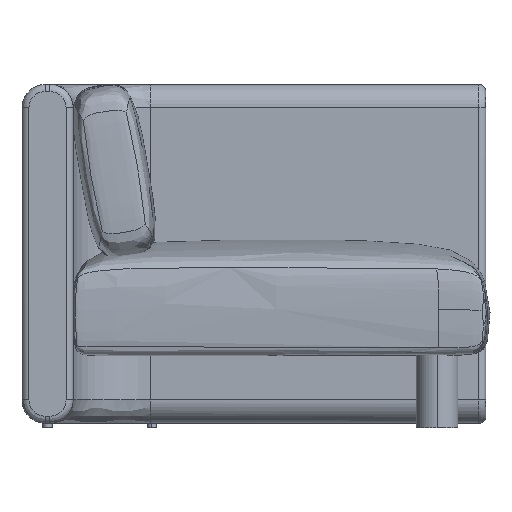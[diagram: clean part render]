
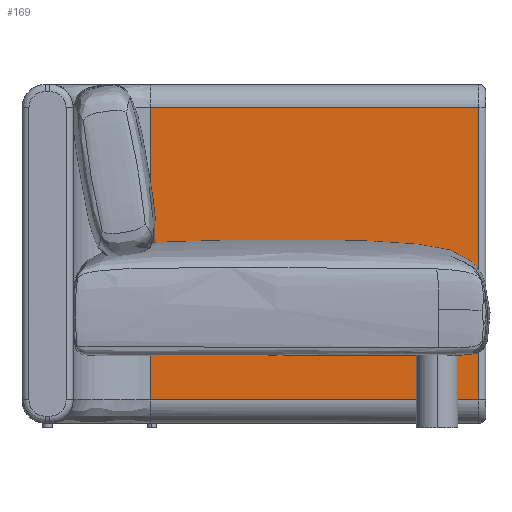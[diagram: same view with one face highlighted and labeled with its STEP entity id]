
A CAD part, left-side view. The second image highlights one B-rep face of the part: STEP entity #169.
In plain terms, the highlighted planar face has unit normal (-1, 0, 0).
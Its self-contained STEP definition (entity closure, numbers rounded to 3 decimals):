
#169=ADVANCED_FACE('',(#260),#1250,.T.);
#260=FACE_OUTER_BOUND('',#351,.T.);
#351=EDGE_LOOP('',(#467,#468,#469,#470));
#467=ORIENTED_EDGE('',*,*,#867,.T.);
#468=ORIENTED_EDGE('',*,*,#847,.F.);
#469=ORIENTED_EDGE('',*,*,#868,.F.);
#470=ORIENTED_EDGE('',*,*,#866,.F.);
#847=EDGE_CURVE('',#1144,#1132,#1040,.T.);
#866=EDGE_CURVE('',#1160,#1161,#1055,.T.);
#867=EDGE_CURVE('',#1160,#1132,#1056,.T.);
#868=EDGE_CURVE('',#1161,#1144,#1057,.T.);
#1040=(
BOUNDED_CURVE()
B_SPLINE_CURVE(1,(#1733,#1734),.UNSPECIFIED.,.F.,.F.)
B_SPLINE_CURVE_WITH_KNOTS((2,2),(50.,680.),.UNSPECIFIED.)
CURVE()
GEOMETRIC_REPRESENTATION_ITEM()
RATIONAL_B_SPLINE_CURVE((1.,1.))
REPRESENTATION_ITEM('')
);
#1055=(
BOUNDED_CURVE()
B_SPLINE_CURVE(1,(#1778,#1779),.UNSPECIFIED.,.F.,.F.)
B_SPLINE_CURVE_WITH_KNOTS((2,2),(0.,630.),
 .UNSPECIFIED.)
CURVE()
GEOMETRIC_REPRESENTATION_ITEM()
RATIONAL_B_SPLINE_CURVE((1.,1.))
REPRESENTATION_ITEM('')
);
#1056=(
BOUNDED_CURVE()
B_SPLINE_CURVE(1,(#1780,#1781),.UNSPECIFIED.,.F.,.F.)
B_SPLINE_CURVE_WITH_KNOTS((2,2),(15.,722.222),
 .UNSPECIFIED.)
CURVE()
GEOMETRIC_REPRESENTATION_ITEM()
RATIONAL_B_SPLINE_CURVE((1.,1.))
REPRESENTATION_ITEM('')
);
#1057=(
BOUNDED_CURVE()
B_SPLINE_CURVE(1,(#1782,#1783),.UNSPECIFIED.,.F.,.F.)
B_SPLINE_CURVE_WITH_KNOTS((2,2),(15.,722.222),
 .UNSPECIFIED.)
CURVE()
GEOMETRIC_REPRESENTATION_ITEM()
RATIONAL_B_SPLINE_CURVE((1.,1.))
REPRESENTATION_ITEM('')
);
#1132=VERTEX_POINT('',#1646);
#1144=VERTEX_POINT('',#1658);
#1160=VERTEX_POINT('',#1674);
#1161=VERTEX_POINT('',#1675);
#1250=PLANE('',#1387);
#1387=AXIS2_PLACEMENT_3D('',#1513,#1436,$);
#1436=DIRECTION('',(-1.,0.,0.));
#1513=CARTESIAN_POINT('',(-1550.359,-500.,0.));
#1646=CARTESIAN_POINT('',(-1550.359,222.222,680.));
#1658=CARTESIAN_POINT('',(-1550.359,222.222,50.));
#1674=CARTESIAN_POINT('',(-1550.359,-485.,680.));
#1675=CARTESIAN_POINT('',(-1550.359,-485.,50.));
#1733=CARTESIAN_POINT('',(-1550.359,222.222,50.));
#1734=CARTESIAN_POINT('',(-1550.359,222.222,680.));
#1778=CARTESIAN_POINT('',(-1550.359,-485.,680.));
#1779=CARTESIAN_POINT('',(-1550.359,-485.,50.));
#1780=CARTESIAN_POINT('',(-1550.359,-485.,680.));
#1781=CARTESIAN_POINT('',(-1550.359,222.222,680.));
#1782=CARTESIAN_POINT('',(-1550.359,-485.,50.));
#1783=CARTESIAN_POINT('',(-1550.359,222.222,50.));
